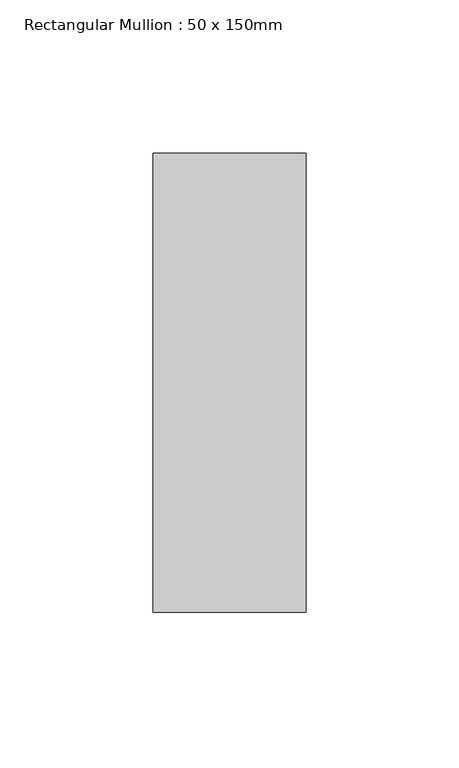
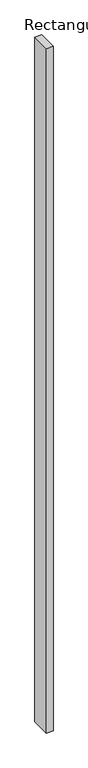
"""IFC4 building model written with IfcOpenShell, lengths in millimetres: member geometry, Rectangular Mullion : 50 x 150mm."""

from ifc_helpers import new_model, si_unit, frame, origin, place, context, project, spatial, polyline, outline, extrude, source, transform, mapped, element, save


def rectangular_mullion_50_x_150mm_4493f536(model_context):
    return source(origin(), model_context, "Body", "SweptSolid", [
        extrude(outline(polyline([(0.0, 75.0), (0.0, -75.0), (-50.0, -75.0), (-50.0, 75.0), (0.0, 75.0)])), frame((0.0, 0.0, -5438.2729282), z_axis=(0.0, 0.0, 1.0), x_axis=(1.0, 0.0, 0.0)), (0.0, 0.0, 1.0), 5438.2729282),
    ])


if __name__ == "__main__":
    model = new_model("IFC4")
    model_context = context("Model", 3, world=origin())
    ifc_project = project(units=[si_unit("LENGTHUNIT", "METRE", prefix="MILLI")], contexts=[model_context])
    site = spatial("IfcSite", under=ifc_project)
    building = spatial("IfcBuilding", under=site)
    placement = place(None, origin())
    rectangular_mullion_50_x_150mm_shape = rectangular_mullion_50_x_150mm_4493f536(model_context)
    element("IfcMember", 1, ObjectType="Rectangular Mullion : 50 x 150mm", at=placement, inside=building, context=model_context, shape_type="MappedRepresentation", body=[
        mapped(rectangular_mullion_50_x_150mm_shape, transform((0.0, 0.0, 0.0), x_axis=(1.0, 0.0, 0.0), y_axis=(0.0, 1.0, 0.0), z_axis=(0.0, 0.0, 1.0))),
    ])
    save(model, "model.ifc")
